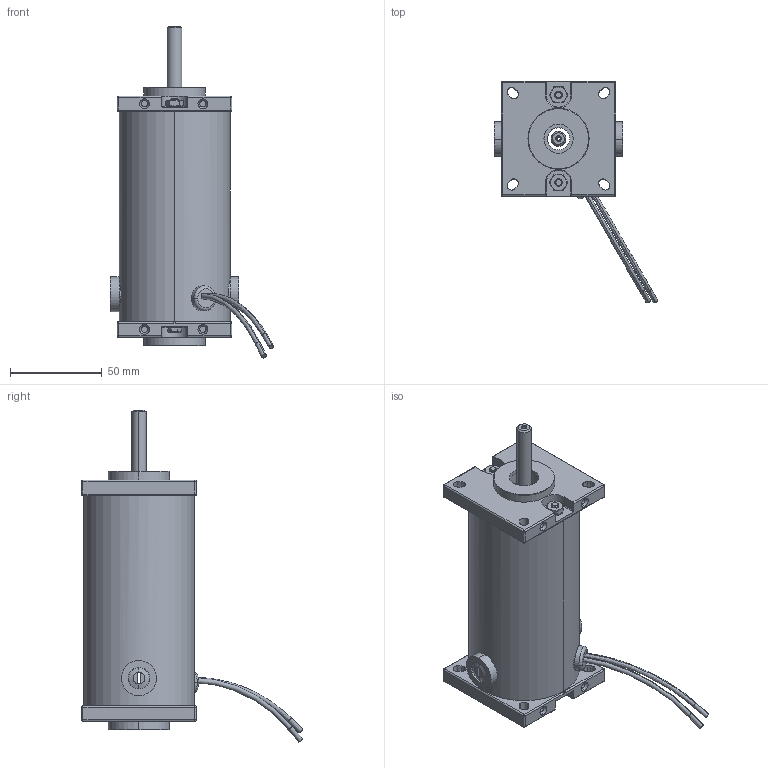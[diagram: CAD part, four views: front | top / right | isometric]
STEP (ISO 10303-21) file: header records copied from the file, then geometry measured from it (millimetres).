
FILE_DESCRIPTION (( 'STEP AP203' ), '1' );
FILE_NAME ('OUTLINE PM6015.STEP', '2006-08-03T14:21:04', ( 'Eng-KVV2' ), ( 'Groschopp' ), 'SwSTEP 2.0', 'SolidWorks 2005339', '' );
FILE_SCHEMA (( 'CONFIG_CONTROL_DESIGN' ));
Length unit declared in the file: inch
Products named in the file (1): OUTLINE PM6015
Bounding box: 88.81 x 120.21 x 180.59 mm (x, y, z)
Surface area: 47689.4 mm2 (no closed solid volume)
Topology: 0 solids, 27 shells, 329 faces, 867 edges, 563 vertices
Faces by surface type: cylinder 125, plane 110, cone 64, torus 28, bspline 2
Entity records: 10757 total; most frequent: CARTESIAN_POINT 2395, DIRECTION 1868, ORIENTED_EDGE 1544, EDGE_CURVE 867, AXIS2_PLACEMENT_3D 733, VERTEX_POINT 563, CIRCLE 405, VECTOR 402
